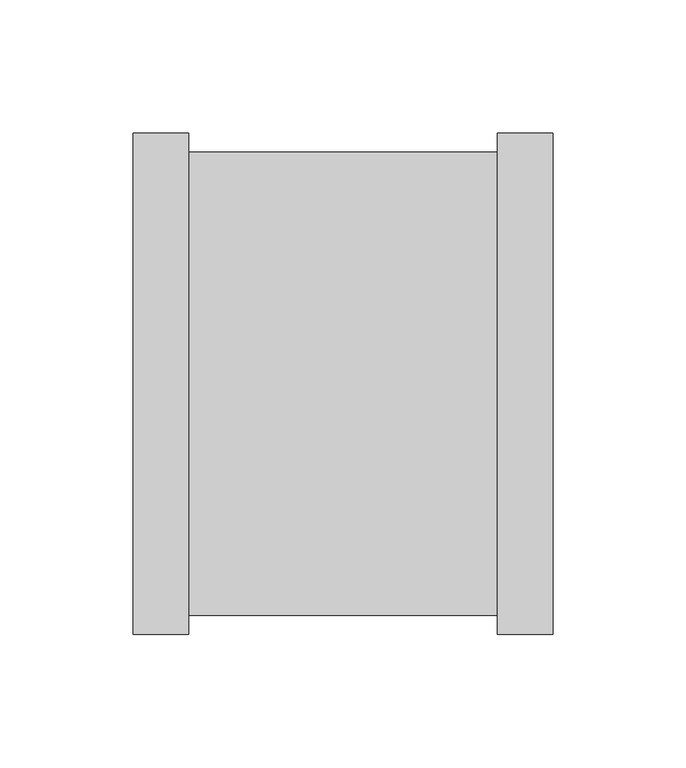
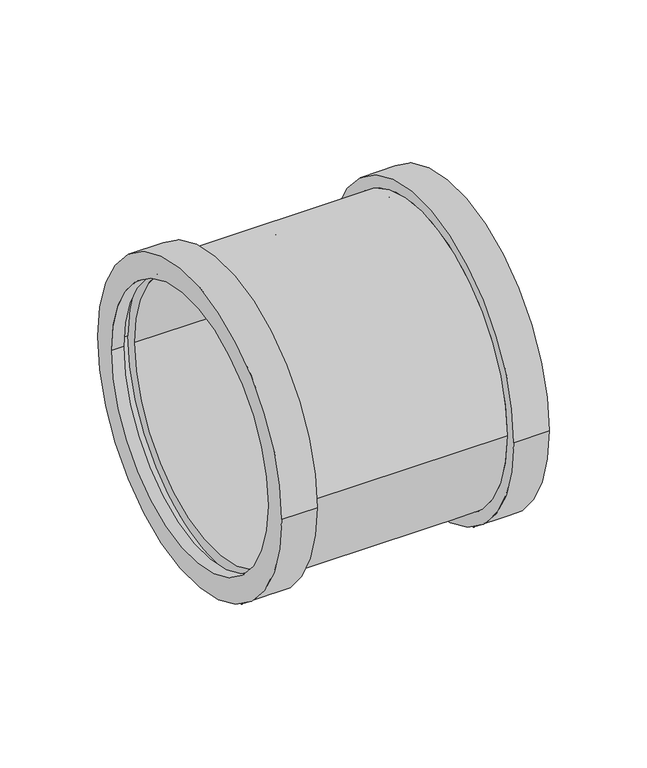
"""IFC4 building model written with IfcOpenShell, lengths in millimetres: pipe fitting geometry, AWADUKT PP Union DSM : Blue No PID."""

from ifc_helpers import new_model, si_unit, frame, origin, place, context, project, spatial, polyline, circle_curve, source, transform, mapped, element, save
from ifc_brep_helpers import plane_surface, cylinder_surface, revolved_surface, advanced_brep


def pipe_fitting_3dc9645f(model_context):
    return source(origin(), model_context, "Body", "AdvancedBrep", [
        advanced_brep(
        [(-63.2, -80.0, 0.0), (-63.2, 80.0, 0.0), (0.0, 80.0, 0.0), (0.0, -80.0, 0.0), (-69.8, -87.1, 0.0), (-69.8, 87.1, 0.0), (-63.2, 87.1, 0.0), (-63.2, -87.1, 0.0), (-76.9, -80.0, 0.0), (-76.9, 80.0, 0.0), (-69.8, 80.0, 0.0), (-69.8, -80.0, 0.0), (-56.1, -94.2, 0.0), (-56.1, 94.2, 0.0), (-76.9, 94.2, 0.0), (-76.9, -94.2, 0.0), (60.1, -87.1, 0.0), (60.1, 87.1, 0.0), (-56.1, 87.1, 0.0), (-56.1, -87.1, 0.0), (80.9, -94.2, 0.0), (80.9, 94.2, 0.0), (60.1, 94.2, 0.0), (60.1, -94.2, 0.0), (73.8, -80.0, 0.0), (73.8, 80.0, 0.0), (80.9, 80.0, 0.0), (80.9, -80.0, 0.0), (67.2, -87.1, 0.0), (67.2, 87.1, 0.0), (73.8, 87.1, 0.0), (73.8, -87.1, 0.0), (4.0, -80.0, 0.0), (4.0, 80.0, 0.0), (67.2, 80.0, 0.0), (67.2, -80.0, 0.0), (0.0, -72.9, 0.0), (0.0, 72.9, 0.0), (4.0, 72.9, 0.0), (4.0, -72.9, 0.0)],
        [
            (0, 1, circle_curve(frame((-63.2, 0.0, 0.0), z_axis=(-1.0, 0.0, 0.0), x_axis=(0.0, 1.0, 0.0)), 80.0)),
            (1, 2),
            (2, 3, circle_curve(frame((0.0, 0.0, 0.0), z_axis=(1.0, 0.0, 0.0), x_axis=(0.0, 1.0, 0.0)), 80.0)),
            (3, 0),
            (4, 5, circle_curve(frame((-69.8, 0.0, 0.0), z_axis=(-1.0, 0.0, 0.0), x_axis=(0.0, 1.0, 0.0)), 87.1)),
            (5, 6),
            (6, 7, circle_curve(frame((-63.2, 0.0, 0.0), z_axis=(1.0, 0.0, 0.0), x_axis=(0.0, 1.0, 0.0)), 87.1)),
            (7, 4),
            (8, 9, circle_curve(frame((-76.9, 0.0, 0.0), z_axis=(-1.0, 0.0, 0.0), x_axis=(0.0, 1.0, 0.0)), 80.0)),
            (9, 10),
            (10, 11, circle_curve(frame((-69.8, 0.0, 0.0), z_axis=(1.0, 0.0, 0.0), x_axis=(0.0, 1.0, 0.0)), 80.0)),
            (11, 8),
            (12, 13, circle_curve(frame((-56.1, 0.0, 0.0), z_axis=(-1.0, 0.0, 0.0), x_axis=(0.0, 1.0, 0.0)), 94.2)),
            (13, 14),
            (14, 15, circle_curve(frame((-76.9, 0.0, 0.0), z_axis=(1.0, 0.0, 0.0), x_axis=(0.0, 1.0, 0.0)), 94.2)),
            (15, 12),
            (16, 17, circle_curve(frame((60.1, 0.0, 0.0), z_axis=(-1.0, 0.0, 0.0), x_axis=(0.0, 1.0, 0.0)), 87.1)),
            (17, 18),
            (18, 19, circle_curve(frame((-56.1, 0.0, 0.0), z_axis=(1.0, 0.0, 0.0), x_axis=(0.0, 1.0, 0.0)), 87.1)),
            (19, 16),
            (20, 21, circle_curve(frame((80.9, 0.0, 0.0), z_axis=(-1.0, 0.0, 0.0), x_axis=(0.0, 1.0, 0.0)), 94.2)),
            (21, 22),
            (22, 23, circle_curve(frame((60.1, 0.0, 0.0), z_axis=(1.0, 0.0, 0.0), x_axis=(0.0, 1.0, 0.0)), 94.2)),
            (23, 20),
            (24, 25, circle_curve(frame((73.8, 0.0, 0.0), z_axis=(-1.0, 0.0, 0.0), x_axis=(0.0, 1.0, 0.0)), 80.0)),
            (25, 26),
            (26, 27, circle_curve(frame((80.9, 0.0, 0.0), z_axis=(1.0, 0.0, 0.0), x_axis=(0.0, 1.0, 0.0)), 80.0)),
            (27, 24),
            (28, 29, circle_curve(frame((67.2, 0.0, 0.0), z_axis=(-1.0, 0.0, 0.0), x_axis=(0.0, 1.0, 0.0)), 87.1)),
            (29, 30),
            (30, 31, circle_curve(frame((73.8, 0.0, 0.0), z_axis=(1.0, 0.0, 0.0), x_axis=(0.0, 1.0, 0.0)), 87.1)),
            (31, 28),
            (32, 33, circle_curve(frame((4.0, 0.0, 0.0), z_axis=(-1.0, 0.0, 0.0), x_axis=(0.0, 1.0, 0.0)), 80.0)),
            (33, 34),
            (34, 35, circle_curve(frame((67.2, 0.0, 0.0), z_axis=(1.0, 0.0, 0.0), x_axis=(0.0, 1.0, 0.0)), 80.0)),
            (35, 32),
            (36, 37, circle_curve(frame((0.0, 0.0, 0.0), z_axis=(-1.0, 0.0, 0.0), x_axis=(0.0, 1.0, 0.0)), 72.9)),
            (37, 38),
            (38, 39, circle_curve(frame((4.0, 0.0, 0.0), z_axis=(1.0, 0.0, 0.0), x_axis=(0.0, 1.0, 0.0)), 72.9)),
            (39, 36),
            (1, 0, circle_curve(frame((-63.2, 0.0, 0.0), z_axis=(-1.0, 0.0, 0.0), x_axis=(0.0, -1.0, 0.0)), 80.0)),
            (3, 2, circle_curve(frame((0.0, 0.0, 0.0), z_axis=(1.0, 0.0, 0.0), x_axis=(0.0, -1.0, 0.0)), 80.0)),
            (6, 7, circle_curve(frame((-63.2, 0.0, 0.0), z_axis=(-1.0, 0.0, 0.0), x_axis=(0.0, -1.0, 0.0)), 87.1)),
            (5, 4, circle_curve(frame((-69.8, 0.0, 0.0), z_axis=(-1.0, 0.0, 0.0), x_axis=(0.0, -1.0, 0.0)), 87.1)),
            (10, 11, circle_curve(frame((-69.8, 0.0, 0.0), z_axis=(-1.0, 0.0, 0.0), x_axis=(0.0, -1.0, 0.0)), 80.0)),
            (9, 8, circle_curve(frame((-76.9, 0.0, 0.0), z_axis=(-1.0, 0.0, 0.0), x_axis=(0.0, -1.0, 0.0)), 80.0)),
            (14, 15, circle_curve(frame((-76.9, 0.0, 0.0), z_axis=(-1.0, 0.0, 0.0), x_axis=(0.0, -1.0, 0.0)), 94.2)),
            (13, 12, circle_curve(frame((-56.1, 0.0, 0.0), z_axis=(-1.0, 0.0, 0.0), x_axis=(0.0, -1.0, 0.0)), 94.2)),
            (18, 19, circle_curve(frame((-56.1, 0.0, 0.0), z_axis=(-1.0, 0.0, 0.0), x_axis=(0.0, -1.0, 0.0)), 87.1)),
            (17, 16, circle_curve(frame((60.1, 0.0, 0.0), z_axis=(-1.0, 0.0, 0.0), x_axis=(0.0, -1.0, 0.0)), 87.1)),
            (22, 23, circle_curve(frame((60.1, 0.0, 0.0), z_axis=(-1.0, 0.0, 0.0), x_axis=(0.0, -1.0, 0.0)), 94.2)),
            (21, 20, circle_curve(frame((80.9, 0.0, 0.0), z_axis=(-1.0, 0.0, 0.0), x_axis=(0.0, -1.0, 0.0)), 94.2)),
            (26, 27, circle_curve(frame((80.9, 0.0, 0.0), z_axis=(-1.0, 0.0, 0.0), x_axis=(0.0, -1.0, 0.0)), 80.0)),
            (25, 24, circle_curve(frame((73.8, 0.0, 0.0), z_axis=(-1.0, 0.0, 0.0), x_axis=(0.0, -1.0, 0.0)), 80.0)),
            (30, 31, circle_curve(frame((73.8, 0.0, 0.0), z_axis=(-1.0, 0.0, 0.0), x_axis=(0.0, -1.0, 0.0)), 87.1)),
            (29, 28, circle_curve(frame((67.2, 0.0, 0.0), z_axis=(-1.0, 0.0, 0.0), x_axis=(0.0, -1.0, 0.0)), 87.1)),
            (34, 35, circle_curve(frame((67.2, 0.0, 0.0), z_axis=(-1.0, 0.0, 0.0), x_axis=(0.0, -1.0, 0.0)), 80.0)),
            (33, 32, circle_curve(frame((4.0, 0.0, 0.0), z_axis=(-1.0, 0.0, 0.0), x_axis=(0.0, -1.0, 0.0)), 80.0)),
            (38, 39, circle_curve(frame((4.0, 0.0, 0.0), z_axis=(-1.0, 0.0, 0.0), x_axis=(0.0, -1.0, 0.0)), 72.9)),
            (37, 36, circle_curve(frame((0.0, 0.0, 0.0), z_axis=(-1.0, 0.0, 0.0), x_axis=(0.0, -1.0, 0.0)), 72.9)),
        ],
        [
            revolved_surface(polyline([(0.0, 80.0, 0.0), (-63.2, 80.0, 0.0)]), (2.0, 0.0, 0.0), (1.0, 0.0, 0.0)),
            revolved_surface(polyline([(-63.2, 87.1, 0.0), (-69.8, 87.1, 0.0)]), (2.0, 0.0, 0.0), (1.0, 0.0, 0.0)),
            revolved_surface(polyline([(-69.8, 80.0, 0.0), (-76.9, 80.0, 0.0)]), (2.0, 0.0, 0.0), (1.0, 0.0, 0.0)),
            cylinder_surface(frame((2.0, 0.0, 0.0), z_axis=(1.0, 0.0, 0.0), x_axis=(0.0, 1.0, 0.0)), 94.2),
            cylinder_surface(frame((2.0, 0.0, 0.0), z_axis=(1.0, 0.0, 0.0), x_axis=(0.0, 1.0, 0.0)), 87.1),
            revolved_surface(polyline([(80.9, 80.0, 0.0), (73.8, 80.0, 0.0)]), (2.0, 0.0, 0.0), (1.0, 0.0, 0.0)),
            revolved_surface(polyline([(73.8, 87.1, 0.0), (67.2, 87.1, 0.0)]), (2.0, 0.0, 0.0), (1.0, 0.0, 0.0)),
            revolved_surface(polyline([(67.2, 80.0, 0.0), (4.0, 80.0, 0.0)]), (2.0, 0.0, 0.0), (1.0, 0.0, 0.0)),
            revolved_surface(polyline([(4.0, 72.9, 0.0), (0.0, 72.9, 0.0)]), (2.0, 0.0, 0.0), (1.0, 0.0, 0.0)),
            revolved_surface(polyline([(0.0, -80.0, 0.0), (-63.2, -80.0, 0.0)]), (2.0, 0.0, 0.0), (1.0, 0.0, 0.0)),
            plane_surface(frame((-63.2, 0.0, 0.0), z_axis=(-1.0, 0.0, 0.0), x_axis=(0.0, -1.0, 0.0))),
            revolved_surface(polyline([(-63.2, -87.1, 0.0), (-69.8, -87.1, 0.0)]), (2.0, 0.0, 0.0), (1.0, 0.0, 0.0)),
            plane_surface(frame((-69.8, 0.0, 0.0), z_axis=(1.0, 0.0, 0.0), x_axis=(0.0, -1.0, 0.0))),
            revolved_surface(polyline([(-69.8, -80.0, 0.0), (-76.9, -80.0, 0.0)]), (2.0, 0.0, 0.0), (1.0, 0.0, 0.0)),
            plane_surface(frame((-76.9, 0.0, 0.0), z_axis=(-1.0, 0.0, 0.0), x_axis=(0.0, -1.0, 0.0))),
            cylinder_surface(frame((2.0, 0.0, 0.0), z_axis=(1.0, 0.0, 0.0), x_axis=(0.0, -1.0, 0.0)), 94.2),
            plane_surface(frame((-56.1, 0.0, 0.0), z_axis=(1.0, 0.0, 0.0), x_axis=(0.0, -1.0, 0.0))),
            cylinder_surface(frame((2.0, 0.0, 0.0), z_axis=(1.0, 0.0, 0.0), x_axis=(0.0, -1.0, 0.0)), 87.1),
            plane_surface(frame((60.1, 0.0, 0.0), z_axis=(-1.0, 0.0, 0.0), x_axis=(0.0, -1.0, 0.0))),
            plane_surface(frame((80.9, 0.0, 0.0), z_axis=(1.0, 0.0, 0.0), x_axis=(0.0, -1.0, 0.0))),
            revolved_surface(polyline([(80.9, -80.0, 0.0), (73.8, -80.0, 0.0)]), (2.0, 0.0, 0.0), (1.0, 0.0, 0.0)),
            plane_surface(frame((73.8, 0.0, 0.0), z_axis=(-1.0, 0.0, 0.0), x_axis=(0.0, -1.0, 0.0))),
            revolved_surface(polyline([(73.8, -87.1, 0.0), (67.2, -87.1, 0.0)]), (2.0, 0.0, 0.0), (1.0, 0.0, 0.0)),
            plane_surface(frame((67.2, 0.0, 0.0), z_axis=(1.0, 0.0, 0.0), x_axis=(0.0, -1.0, 0.0))),
            revolved_surface(polyline([(67.2, -80.0, 0.0), (4.0, -80.0, 0.0)]), (2.0, 0.0, 0.0), (1.0, 0.0, 0.0)),
            plane_surface(frame((4.0, 0.0, 0.0), z_axis=(1.0, 0.0, 0.0), x_axis=(0.0, -1.0, 0.0))),
            revolved_surface(polyline([(4.0, -72.9, 0.0), (0.0, -72.9, 0.0)]), (2.0, 0.0, 0.0), (1.0, 0.0, 0.0)),
            plane_surface(frame((0.0, 0.0, 0.0), z_axis=(-1.0, 0.0, 0.0), x_axis=(0.0, -1.0, 0.0))),
        ],
        [
            (0, [[1, 2, 3, 4]]),
            (1, [[5, 6, 7, 8]]),
            (2, [[9, 10, 11, 12]]),
            (3, [[13, 14, 15, 16]]),
            (4, [[17, 18, 19, 20]]),
            (3, [[21, 22, 23, 24]]),
            (5, [[25, 26, 27, 28]]),
            (6, [[29, 30, 31, 32]]),
            (7, [[33, 34, 35, 36]]),
            (8, [[37, 38, 39, 40]]),
            (9, [[41, -4, 42, -2]]),
            (10, [[43, -7], [-41, -1]]),
            (11, [[44, -8, -43, -6]]),
            (12, [[-44, -5], [45, -11]]),
            (13, [[46, -12, -45, -10]]),
            (14, [[47, -15], [-46, -9]]),
            (15, [[48, -16, -47, -14]]),
            (16, [[-48, -13], [49, -19]]),
            (17, [[50, -20, -49, -18]]),
            (18, [[51, -23], [-50, -17]]),
            (15, [[52, -24, -51, -22]]),
            (19, [[-52, -21], [53, -27]]),
            (20, [[54, -28, -53, -26]]),
            (21, [[55, -31], [-54, -25]]),
            (22, [[56, -32, -55, -30]]),
            (23, [[-56, -29], [57, -35]]),
            (24, [[58, -36, -57, -34]]),
            (25, [[-58, -33], [59, -39]]),
            (26, [[60, -40, -59, -38]]),
            (27, [[-42, -3], [-60, -37]]),
        ],
    ),
    ])


if __name__ == "__main__":
    model = new_model("IFC4")
    model_context = context("Model", 3, world=origin())
    ifc_project = project(units=[si_unit("LENGTHUNIT", "METRE", prefix="MILLI")], contexts=[model_context])
    site = spatial("IfcSite", under=ifc_project)
    building = spatial("IfcBuilding", under=site)
    placement = place(None, origin())
    pipe_fitting_shape = pipe_fitting_3dc9645f(model_context)
    element("IfcPipeFitting", 1, ObjectType="AWADUKT PP Union DSM : Blue No PID", at=placement, inside=building, context=model_context, shape_type="MappedRepresentation", body=[
        mapped(pipe_fitting_shape, transform((0.0, 0.0, 0.0), x_axis=(1.0, 0.0, 0.0), y_axis=(0.0, 1.0, 0.0), z_axis=(0.0, 0.0, 1.0))),
    ])
    save(model, "model.ifc")
